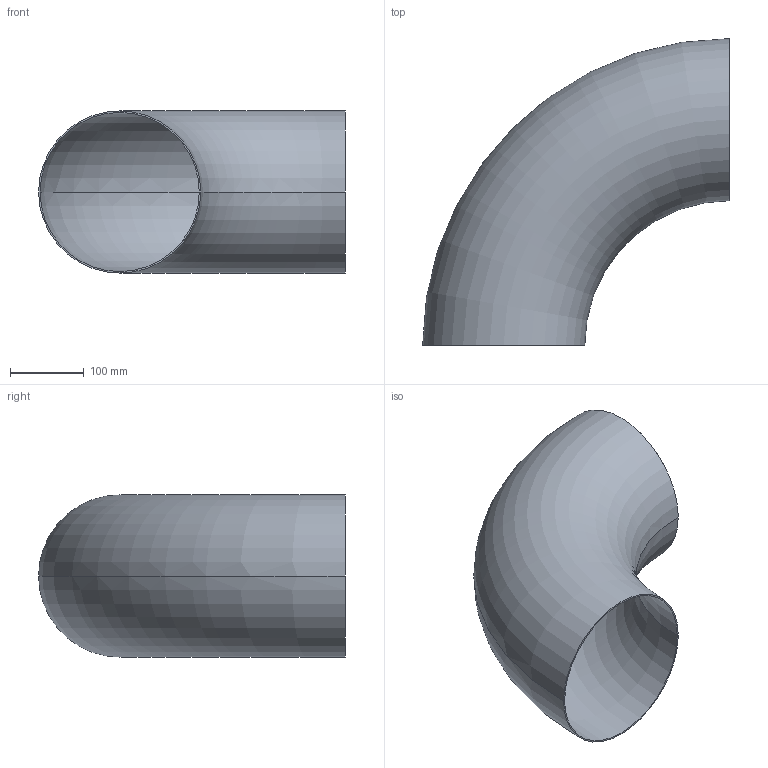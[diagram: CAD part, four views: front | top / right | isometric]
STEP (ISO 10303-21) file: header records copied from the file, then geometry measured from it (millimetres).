
FILE_DESCRIPTION (( 'STEP AP203' ), '1' );
FILE_NAME ('OT200-200-219_1x2_OSTP.step', '2020-12-16T02:57:12', ( '' ), ( '' ), 'SwSTEP 2.0', 'SolidWorks 2014', '' );
FILE_SCHEMA (( 'CONFIG_CONTROL_DESIGN' ));
Length unit declared in the file: millimetre
Products named in the file (1): OT200-200-219_1x2_OSTP
Bounding box: 414.55 x 414.55 x 219.1 mm (x, y, z)
Volume: 653520.8 mm3; surface area: 656248.9 mm2
Topology: 1 solids, 1 shells, 6 faces, 12 edges, 8 vertices
Faces by surface type: torus 4, plane 2
Entity records: 249 total; most frequent: DIRECTION 38, CARTESIAN_POINT 27, ORIENTED_EDGE 24, AXIS2_PLACEMENT_3D 19, EDGE_CURVE 12, CIRCLE 12, PERSON_AND_ORGANIZATION 8, VERTEX_POINT 8
